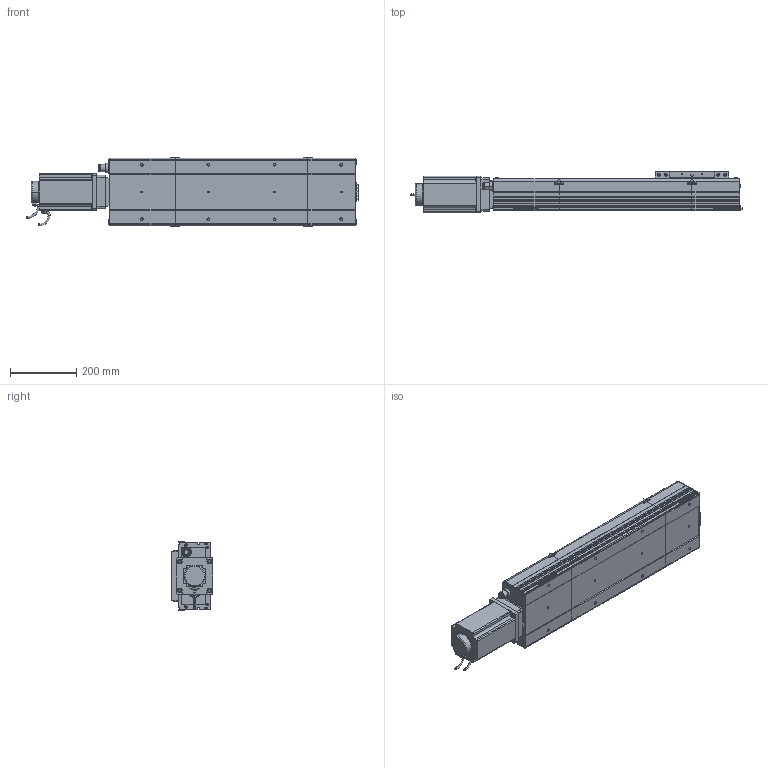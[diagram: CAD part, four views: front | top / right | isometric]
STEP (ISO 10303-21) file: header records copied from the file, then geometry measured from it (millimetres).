
FILE_DESCRIPTION (( 'STEP AP214' ), '1' );
FILE_NAME ('D20 CSH MD S400.STEP', '2010-06-30T07:56:56', ( 'Conseil Régional Haute-Normandie' ), ( 'Conseil Régional Haute-Normandie' ), 'SwSTEP 2.0', 'SolidWorks 2010', '' );
FILE_SCHEMA (( 'AUTOMOTIVE_DESIGN' ));
Length unit declared in the file: millimetre
Products named in the file (28): codeur 110BLDC170A-630x; Conecteur2_Default; Conecteur_Default; Glissiere_Default; Chariot D20_Default; vis M5 L15_Default; Support Chariot D20_Default; clavette; D20 CSH MD S400; Couvercle_Default; Corp Tail D20_Default; Tail D20_Default; Corp D20 S400_Default; Plaque De Serrage D20_Default; Plaque de Bout Tail D20_Default; Head D20 MD_Default; Couvercle S400_Default; Corp S400_Default; Plaque de Bout Head D20_Default; Couvercle Head_Default; Corp Head D20_Default; vis M8 L15_Default; Plaque racord D20_Default; Plaque De Serrage Head D20_Default; corps 110BLDC170A-630x; avant 110BLDC170A-630x; Moteur motionking 110BLDC170A-640x
Assembly tree (53 placements, depth 4):
  D20 CSH MD S400
    Corp D20 S400_Default
      Couvercle S400_Default
      Corp S400_Default
    Tail D20_Default
      vis M5 L15_Default  x6
      Plaque De Serrage D20_Default
      Plaque de Bout Tail D20_Default
      Couvercle_Default
      Corp Tail D20_Default
    Head D20 MD_Default
      vis M5 L15_Default  x10
      Plaque de Bout Head D20_Default
      vis M8 L15_Default  x4
      Corp Head D20_Default
      Couvercle Head_Default
      Plaque De Serrage Head D20_Default
      Moteur motionking 110BLDC170A-640x
        codeur 110BLDC170A-630x
        Conecteur_Default
        Conecteur2_Default
        corps 110BLDC170A-630x
        avant 110BLDC170A-630x
        clavette
      Plaque racord D20_Default
    Chariot D20_Default
      vis M5 L15_Default  x8
      Glissiere_Default
      Support Chariot D20_Default
      Chariot D20_Default
Bounding box: 999 x 125.5 x 206 mm (x, y, z)
Volume: 7705334.2 mm3; surface area: 1341873.8 mm2
Topology: 90 solids, 90 shells, 3385 faces, 8537 edges, 5577 vertices
Faces by surface type: plane 1932, bspline 758, cylinder 557, torus 79, cone 59
Entity records: 152139 total; most frequent: CARTESIAN_POINT 79220, ORIENTED_EDGE 14470, DIRECTION 10739, EDGE_CURVE 7235, VERTEX_POINT 4797, VECTOR 4763, LINE 4763, EDGE_LOOP 3060
